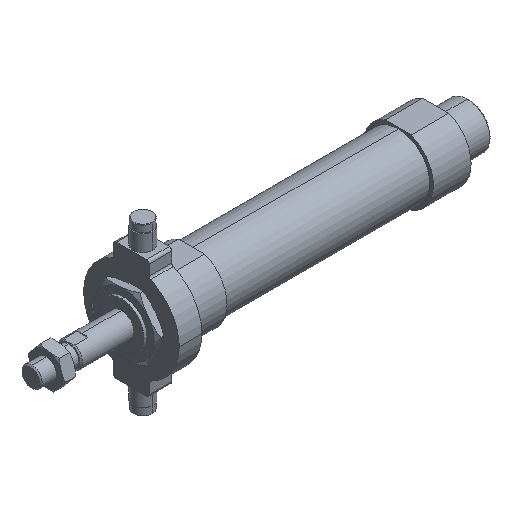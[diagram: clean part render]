
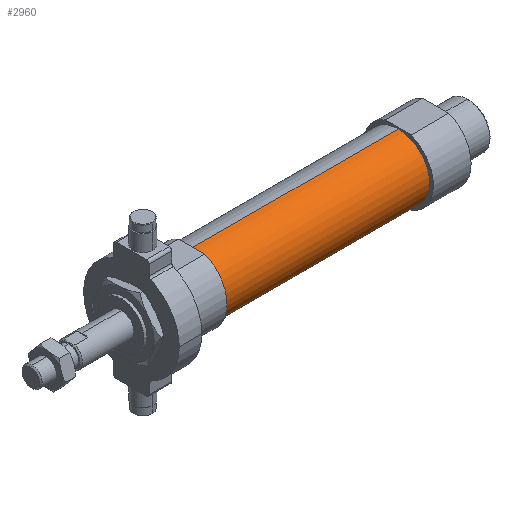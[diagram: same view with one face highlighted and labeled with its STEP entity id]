
A CAD part, isometric view. The second image highlights one B-rep face of the part: STEP entity #2960.
In plain terms, the highlighted cylindrical face has radius 12.5 mm (diameter 25 mm), a partial arc.
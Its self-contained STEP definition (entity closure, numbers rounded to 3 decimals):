
#25 = EDGE_LOOP ( 'NONE', ( #879, #1797, #1750, #292 ) ) ;
#40 = EDGE_CURVE ( 'NONE', #2693, #2687, #580, .T. ) ;
#84 = VERTEX_POINT ( 'NONE', #350 ) ;
#111 = CARTESIAN_POINT ( 'NONE',  ( -6.469, 0., 0. ) ) ;
#292 = ORIENTED_EDGE ( 'NONE', *, *, #40, .F. ) ;
#350 = CARTESIAN_POINT ( 'NONE',  ( 146., 0., 12.5 ) ) ;
#442 = CIRCLE ( 'NONE', #4094, 12.5 ) ;
#580 = CIRCLE ( 'NONE', #1863, 12.5 ) ;
#624 = LINE ( 'NONE', #2915, #2784 ) ;
#879 = ORIENTED_EDGE ( 'NONE', *, *, #2095, .F. ) ;
#1496 = VECTOR ( 'NONE', #4174, 1000. ) ;
#1509 = CARTESIAN_POINT ( 'NONE',  ( -6.469, 0., -12.5 ) ) ;
#1729 = EDGE_CURVE ( 'NONE', #2284, #84, #442, .T. ) ;
#1750 = ORIENTED_EDGE ( 'NONE', *, *, #2643, .T. ) ;
#1797 = ORIENTED_EDGE ( 'NONE', *, *, #1729, .T. ) ;
#1863 = AXIS2_PLACEMENT_3D ( 'NONE', #2514, #4151, #1901 ) ;
#1901 = DIRECTION ( 'NONE',  ( 0., 0., 1. ) ) ;
#1911 = DIRECTION ( 'NONE',  ( -1., 0., 0. ) ) ;
#2095 = EDGE_CURVE ( 'NONE', #2284, #2693, #3389, .T. ) ;
#2284 = VERTEX_POINT ( 'NONE', #3115 ) ;
#2514 = CARTESIAN_POINT ( 'NONE',  ( 64., 0., 0. ) ) ;
#2569 = DIRECTION ( 'NONE',  ( -1., 0., 0. ) ) ;
#2588 = DIRECTION ( 'NONE',  ( 0., 0., 1. ) ) ;
#2643 = EDGE_CURVE ( 'NONE', #84, #2687, #624, .T. ) ;
#2652 = FACE_OUTER_BOUND ( 'NONE', #25, .T. ) ;
#2687 = VERTEX_POINT ( 'NONE', #3423 ) ;
#2693 = VERTEX_POINT ( 'NONE', #3998 ) ;
#2784 = VECTOR ( 'NONE', #3492, 1000. ) ;
#2915 = CARTESIAN_POINT ( 'NONE',  ( -6.469, 0., 12.5 ) ) ;
#2960 = ADVANCED_FACE ( 'NONE', ( #2652 ), #4295, .T. ) ;
#3115 = CARTESIAN_POINT ( 'NONE',  ( 146., 0., -12.5 ) ) ;
#3389 = LINE ( 'NONE', #1509, #1496 ) ;
#3423 = CARTESIAN_POINT ( 'NONE',  ( 64., 0., 12.5 ) ) ;
#3492 = DIRECTION ( 'NONE',  ( -1., 0., 0. ) ) ;
#3624 = AXIS2_PLACEMENT_3D ( 'NONE', #111, #2569, #4232 ) ;
#3998 = CARTESIAN_POINT ( 'NONE',  ( 64., 0., -12.5 ) ) ;
#4094 = AXIS2_PLACEMENT_3D ( 'NONE', #4156, #1911, #2588 ) ;
#4151 = DIRECTION ( 'NONE',  ( -1., 0., 0. ) ) ;
#4156 = CARTESIAN_POINT ( 'NONE',  ( 146., 0., 0. ) ) ;
#4174 = DIRECTION ( 'NONE',  ( -1., 0., 0. ) ) ;
#4232 = DIRECTION ( 'NONE',  ( 0., 0., 1. ) ) ;
#4295 = CYLINDRICAL_SURFACE ( 'NONE', #3624, 12.5 ) ;
